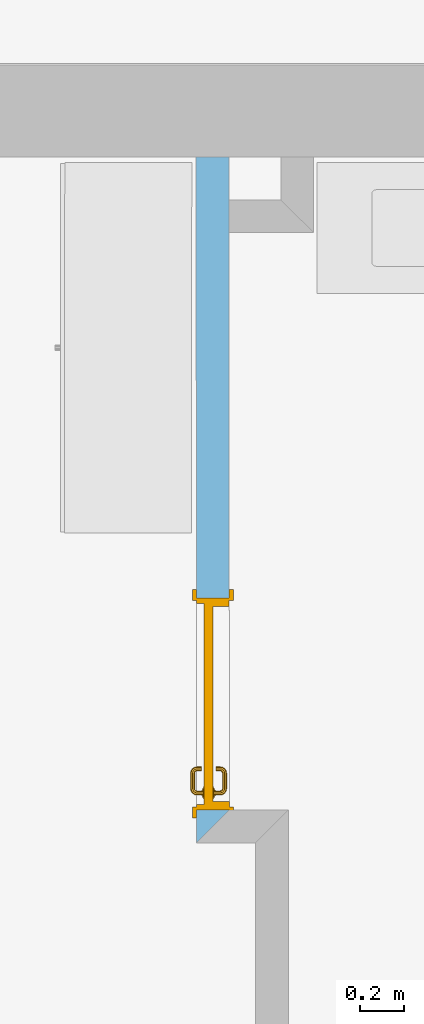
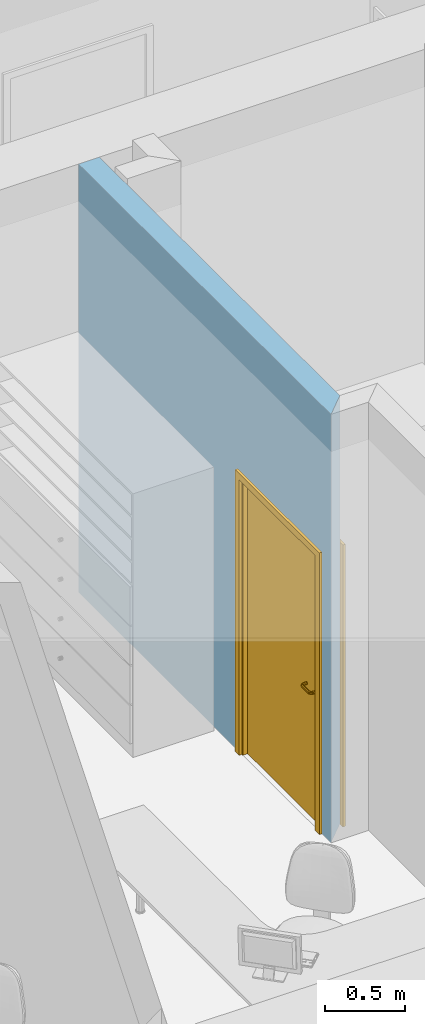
# One storey, part 56 of 194: 1 door, 1 opening, plus 1 element that does not belong to this part.
"""IFC2X3 building model written with IfcOpenShell, lengths in millimetres."""

from ifc_helpers import new_model, entity, si_unit, converted_unit, derived_unit, money_unit, direction, frame, origin_with_axes, origin_2d_with_axis, place, context, subcontext, project, spatial, polyline, rectangle, outline, extrude, open_shell, faceted_brep, surface_model, material, layer, layer_set, layer_usage, type_object, element, fill, save


model = new_model("IFC2X3")

# Units and contexts
model_context = context("Model", 3, precision=1e-05, world=origin_with_axes(), true_north=direction((0.0, 1.0)))
body_context = subcontext(model_context, "Body", "Model", "MODEL_VIEW")
ifc_project = project(units=[si_unit("LENGTHUNIT", "METRE", prefix="MILLI"), si_unit("AREAUNIT", "SQUARE_METRE"), si_unit("VOLUMEUNIT", "CUBIC_METRE"), converted_unit("PLANEANGLEUNIT", "DEGREE", entity("IfcPlaneAngleMeasure", 0.0174532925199), si_unit("PLANEANGLEUNIT", "RADIAN"), dimensions=[0, 0, 0, 0, 0, 0, 0]), si_unit("SOLIDANGLEUNIT", "STERADIAN"), money_unit("EUR"), converted_unit("TIMEUNIT", "Year", entity("IfcTimeMeasure", 31556926.0), si_unit("TIMEUNIT", "SECOND"), dimensions=[0, 0, 1, 0, 0, 0, 0]), si_unit("MASSUNIT", "GRAM", prefix="KILO"), si_unit("THERMODYNAMICTEMPERATUREUNIT", "DEGREE_CELSIUS"), si_unit("LUMINOUSINTENSITYUNIT", "LUMEN"), si_unit("ENERGYUNIT", "JOULE", prefix="MEGA"), derived_unit("THERMALCONDUCTANCEUNIT", [(si_unit("POWERUNIT", "WATT"), 1), (si_unit("LENGTHUNIT", "METRE"), -1), (si_unit("THERMODYNAMICTEMPERATUREUNIT", "KELVIN"), -1)]), derived_unit("SPECIFICHEATCAPACITYUNIT", [(si_unit("ENERGYUNIT", "JOULE"), 1), (si_unit("MASSUNIT", "GRAM", prefix="KILO"), -1), (si_unit("THERMODYNAMICTEMPERATUREUNIT", "KELVIN"), -1)]), derived_unit("MASSDENSITYUNIT", [(si_unit("MASSUNIT", "GRAM", prefix="KILO"), 1), (si_unit("VOLUMEUNIT", "CUBIC_METRE"), -1)])], contexts=[model_context])

# Site, building, storey
site_placement = place(None, origin_with_axes())
site = spatial("IfcSite", under=ifc_project, at=site_placement, Name="Site", CompositionType="ELEMENT")
building_placement = place(site_placement, origin_with_axes())
building = spatial("IfcBuilding", under=site, at=building_placement, Name="Building", CompositionType="ELEMENT")
storey_placement = place(building_placement, frame((0.0, 0.0, 3000.0), z_axis=(0.0, 0.0, 1.0), x_axis=(1.0, 0.0, 0.0)))
storey = spatial("IfcBuildingStorey", under=building, at=storey_placement, Name="2 KORRUS", CompositionType="ELEMENT", Elevation=3000.0)

# Wall, opening, door
ifc_material = material(Name="Kivi -Ol.Olev Konstruktsioon")
ifc_layer = layer(ifc_material, 150.0, ventilated="UNKNOWN")
ifc_layer_set = layer_set([ifc_layer], Name="ol.olev ss 150")
ifc_layer_usage = layer_usage(ifc_layer_set, "AXIS2", "POSITIVE", 0.0)
wall_type = type_object("IfcWallType", Name="SW - 022", PredefinedType="NOTDEFINED")
wall_placement = place(storey_placement, frame((57733.5737612, 41101.6242698, 0.0), z_axis=(0.0, 0.0, 1.0), x_axis=(0.000781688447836, -0.999999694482, 0.0)))
wall = element("IfcWallStandardCase", 1, at=wall_placement, inside=storey, type_object=wall_type, material=ifc_layer_usage, Name="ol.olev ss 150", context=body_context, shape_type="SweptSolid", body=[
    extrude(outline(polyline([(420.000128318, 0.0), (3553.92922897, 0.0), (3403.92688897, 150.0), (420.117381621, 150.0), (420.000128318, 0.0)])), origin_with_axes(), (0.0, 0.0, 1.0), 3250.0),
])
opening_placement = place(wall_placement, frame((2918.92688897, 0.0, 0.0), z_axis=(0.0, 0.0, 1.0), x_axis=(1.0, 0.0, 0.0)))
opening = element("IfcOpeningElement", 2, at=opening_placement, cuts=wall, Name="Siseuks * Door 22", context=body_context, shape_type="SweptSolid", body=[
    extrude(rectangle(XDim=970.0, YDim=2100.0, at=origin_2d_with_axis()), frame((0.0, -150.0, 1050.0), z_axis=(0.0, 1.0, 0.0), x_axis=(-1.0, 0.0, 0.0)), (0.0, 0.0, 1.0), 450.0),
    extrude(rectangle(XDim=1044.0, YDim=2137.0, at=origin_2d_with_axis()), frame((0.0, 0.0, 1068.5), z_axis=(0.0, 1.0, 0.0), x_axis=(-1.0, 0.0, 0.0)), (0.0, 0.0, -1.0), 150.0),
    extrude(rectangle(XDim=1044.0, YDim=2137.0, at=origin_2d_with_axis()), frame((-9.09494701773e-10, 150.0, 1068.5), z_axis=(0.0, -1.0, 0.0), x_axis=(-1.0, 0.0, 0.0)), (0.0, 0.0, -1.0), 150.0),
])
door_style = type_object("IfcDoorStyle", Name="SU-B224   970×2\xa0100", ConstructionType="NOTDEFINED", OperationType="SINGLE_SWING_RIGHT", ParameterTakesPrecedence=False, Sizeable=False)
door_placement = place(opening_placement, frame((485.0, -1.13686837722e-10, 0.0), z_axis=(0.0, 0.0, 1.0), x_axis=(-1.0, 0.0, 0.0)))
door = element("IfcDoor", 3, at=door_placement, inside=storey, type_object=door_style, Name="Siseuks * Door 22", OverallHeight=2100.0, OverallWidth=970.0, context=body_context, shape_type="SurfaceModel", body=[
    faceted_brep([(-9.09494701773e-10, -35.0, 0.0), (9.09494701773e-10, 0.0, 0.0), (25.0000000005, 0.0, 0.0), (24.9999999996, -35.0000000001, 0.0), (-9.09494701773e-10, -35.0, 2100.0), (9.09494701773e-10, 0.0, 2100.0), (25.0000000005, 0.0, 2075.0), (24.9999999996, -35.0000000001, 2075.0)], [[[0, 1, 2, 3]], [[4, 5, 1, 0]], [[1, 5, 6, 2]], [[3, 2, 6, 7]], [[0, 3, 7, 4]], [[7, 6, 5, 4]]]),
    faceted_brep([(970.0, -35.0000000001, 2100.0), (970.0, 0.0, 2100.0), (945.0, 0.0, 2075.0), (945.0, -35.0, 2075.0), (970.0, -35.0000000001, 0.0), (970.0, 0.0, 0.0), (945.0, 0.0, 0.0), (945.0, -35.0, 0.0)], [[[0, 1, 2, 3]], [[4, 5, 1, 0]], [[1, 5, 6, 2]], [[3, 2, 6, 7]], [[0, 3, 7, 4]], [[7, 6, 5, 4]]]),
    faceted_brep([(24.9999999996, -35.0000000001, 2075.0), (25.0000000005, 0.0, 2075.0), (945.0, 0.0, 2075.0), (945.0, -35.0, 2075.0), (-9.09494701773e-10, -35.0, 2100.0), (9.09494701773e-10, 0.0, 2100.0), (970.0, 0.0, 2100.0), (970.0, -35.0000000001, 2100.0)], [[[0, 1, 2, 3]], [[4, 5, 1, 0]], [[1, 5, 6, 2]], [[3, 2, 6, 7]], [[0, 3, 7, 4]], [[7, 6, 5, 4]]]),
    faceted_brep([(-36.9999999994, 19.0, 0.0), (12.9999999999, 19.0, 0.0), (13.0000000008, 0.0, 0.0), (-36.9999999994, 0.0, 0.0), (-36.9999999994, 19.0, 2137.0), (12.9999999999, 19.0, 2087.0), (13.0000000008, 0.0, 2087.0), (-36.9999999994, 0.0, 2137.0)], [[[0, 1, 2, 3]], [[0, 4, 5, 1]], [[1, 5, 6, 2]], [[3, 2, 6, 7]], [[4, 0, 3, 7]], [[5, 4, 7, 6]]]),
    faceted_brep([(1007.0, 19.0, 2137.0), (956.999999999, 19.0, 2087.0), (957.0, 0.0, 2087.0), (1007.0, 0.0, 2137.0), (1007.0, 19.0, 0.0), (956.999999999, 19.0, 0.0), (957.0, 0.0, 0.0), (1007.0, 0.0, 0.0)], [[[0, 1, 2, 3]], [[0, 4, 5, 1]], [[1, 5, 6, 2]], [[3, 2, 6, 7]], [[4, 0, 3, 7]], [[5, 4, 7, 6]]]),
    faceted_brep([(-36.9999999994, 19.0, 2137.0), (12.9999999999, 19.0, 2087.0), (13.0000000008, 0.0, 2087.0), (-36.9999999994, 0.0, 2137.0), (1007.0, 19.0, 2137.0), (956.999999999, 19.0, 2087.0), (957.0, 0.0, 2087.0), (1007.0, 0.0, 2137.0)], [[[0, 1, 2, 3]], [[0, 4, 5, 1]], [[1, 5, 6, 2]], [[3, 2, 6, 7]], [[4, 0, 3, 7]], [[5, 4, 7, 6]]]),
    faceted_brep([(-37.0000000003, -169.0, 0.0), (-37.0000000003, -150.0, 0.0), (12.9999999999, -150.0, 0.0), (12.9999999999, -169.0, 0.0), (-37.0000000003, -169.0, 2137.0), (-37.0000000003, -150.0, 2137.0), (12.9999999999, -150.0, 2087.0), (12.9999999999, -169.0, 2087.0)], [[[0, 1, 2, 3]], [[4, 5, 1, 0]], [[1, 5, 6, 2]], [[3, 2, 6, 7]], [[0, 3, 7, 4]], [[7, 6, 5, 4]]]),
    faceted_brep([(1007.0, -169.0, 2137.0), (1007.0, -150.0, 2137.0), (956.999999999, -150.0, 2087.0), (957.0, -169.0, 2087.0), (1007.0, -169.0, 0.0), (1007.0, -150.0, 0.0), (956.999999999, -150.0, 0.0), (957.0, -169.0, 0.0)], [[[0, 1, 2, 3]], [[4, 5, 1, 0]], [[1, 5, 6, 2]], [[3, 2, 6, 7]], [[0, 3, 7, 4]], [[7, 6, 5, 4]]]),
    faceted_brep([(-37.0000000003, -169.0, 2137.0), (-37.0000000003, -150.0, 2137.0), (12.9999999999, -150.0, 2087.0), (12.9999999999, -169.0, 2087.0), (1007.0, -169.0, 2137.0), (1007.0, -150.0, 2137.0), (956.999999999, -150.0, 2087.0), (957.0, -169.0, 2087.0)], [[[0, 1, 2, 3]], [[4, 5, 1, 0]], [[1, 5, 6, 2]], [[3, 2, 6, 7]], [[0, 3, 7, 4]], [[7, 6, 5, 4]]]),
    faceted_brep([(40.0, -75.0000000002, 0.0), (40.0, -75.0000000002, 2060.0), (39.9999999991, -150.0, 2060.0), (39.9999999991, -150.0, 0.0), (28.0000000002, -74.9999999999, 2060.0), (28.0000000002, -74.9999999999, 0.0), (28.0000000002, -35.0000000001, 2060.0), (-9.09494701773e-10, -35.0, 2060.0), (0.0, -150.0, 2060.0), (0.0, -150.0, 0.0), (-9.09494701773e-10, -35.0, 0.0), (28.0000000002, -35.0000000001, 0.0)], [[[0, 1, 2, 3]], [[4, 1, 0, 5]], [[4, 6, 7, 8, 2, 1]], [[3, 2, 8, 9]], [[5, 0, 3, 9, 10, 11]], [[6, 4, 5, 11]], [[6, 11, 10, 7]], [[10, 9, 8, 7]]]),
    faceted_brep([(941.999999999, -75.0, 2060.0), (929.999999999, -75.0, 2060.0), (930.0, -150.0, 2060.0), (969.999999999, -150.0, 2060.0), (970.0, -35.0000000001, 2060.0), (942.0, -35.0, 2060.0), (941.999999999, -75.0, 0.0), (929.999999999, -75.0, 0.0), (930.0, -150.0, 0.0), (969.999999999, -150.0, 0.0), (970.0, -35.0000000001, 0.0), (942.0, -35.0, 0.0)], [[[0, 1, 2, 3, 4, 5]], [[1, 0, 6, 7]], [[1, 7, 8, 2]], [[3, 2, 8, 9]], [[4, 3, 9, 10]], [[11, 5, 4, 10]], [[0, 5, 11, 6]], [[6, 11, 10, 9, 8, 7]]]),
    faceted_brep([(28.0000000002, -35.0000000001, 2072.0), (28.0000000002, -35.0000000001, 2060.0), (-9.09494701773e-10, -35.0, 2060.0), (-9.09494701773e-10, -35.0, 2100.0), (970.0, -35.0000000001, 2100.0), (970.0, -35.0000000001, 2060.0), (942.0, -35.0, 2060.0), (942.0, -35.0, 2072.0), (28.0000000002, -74.9999999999, 2072.0), (28.0000000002, -74.9999999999, 2060.0), (40.0, -75.0000000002, 2060.0), (39.9999999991, -150.0, 2060.0), (0.0, -150.0, 2060.0), (0.0, -150.0, 2100.0), (969.999999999, -150.0, 2100.0), (969.999999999, -150.0, 2060.0), (941.999999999, -75.0, 2060.0), (930.0, -150.0, 2060.0), (929.999999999, -75.0, 2060.0), (941.999999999, -75.0, 2072.0)], [[[0, 1, 2, 3, 4, 5, 6, 7]], [[1, 0, 8, 9]], [[9, 10, 11, 12, 2, 1]], [[2, 12, 13, 3]], [[3, 13, 14, 4]], [[4, 14, 15, 5]], [[16, 6, 5, 15, 17, 18]], [[7, 6, 16, 19]], [[0, 7, 19, 8]], [[16, 18, 10, 9, 8, 19]], [[10, 18, 17, 11]], [[17, 15, 14, 13, 12, 11]]]),
    faceted_brep([(49.5000000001, -75.0, 1060.0), (49.5000000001, -78.0, 1060.0), (106.500000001, -78.0, 1060.0), (106.499999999, -75.0, 1060.0), (49.5000000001, -75.0, 870.0), (49.5000000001, -78.0, 870.0), (106.500000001, -78.0, 870.0), (106.499999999, -75.0, 870.0)], [[[0, 1, 2, 3]], [[4, 5, 1, 0]], [[1, 5, 6, 2]], [[3, 2, 6, 7]], [[0, 3, 7, 4]], [[7, 6, 5, 4]]]),
    surface_model("IfcShellBasedSurfaceModel", [(87.9999999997, -88.0000000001, 1000.0), (87.9999999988, -107.015085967, 1000.0), (85.0710678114, -107.303560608, 992.928932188), (85.0710678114, -88.0000000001, 992.928932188), (85.0710678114, -88.0000000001, 1007.07106781), (85.0710678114, -107.303560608, 1007.07106781), (88.9422033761, -111.751862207, 1000.0), (86.1832095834, -112.894674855, 992.928932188), (77.9999999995, -108.0, 990.0), (78.0000000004, -88.0000000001, 990.0), (78.0000000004, -88.0000000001, 1010.0), (77.9999999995, -108.0, 1010.0), (86.1832095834, -112.894674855, 1007.07106781), (91.0674625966, -114.932537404, 1000.0), (88.955820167, -117.044179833, 992.928932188), (79.5224093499, -115.653668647, 990.0), (70.9289321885, -108.696439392, 992.928932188), (70.9289321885, -88.0000000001, 992.928932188), (70.9289321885, -88.0000000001, 1007.07106781), (70.9289321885, -108.696439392, 1007.07106781), (79.5224093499, -115.653668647, 1010.0), (88.955820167, -117.044179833, 1007.07106781), (94.2481377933, -117.057796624, 1000.0), (93.1053251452, -119.816790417, 992.928932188), (83.8578643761, -122.142135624, 990.0), (72.8616091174, -118.41266244, 992.928932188), (67.9999999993, -108.984914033, 1000.0), (68.0000000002, -88.0000000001, 1000.0), (72.8616091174, -118.41266244, 1007.07106781), (83.8578643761, -122.142135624, 1010.0), (93.1053251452, -119.816790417, 1007.07106781), (98.9849140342, -118.0, 1000.0), (98.6964393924, -120.928932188, 992.928932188), (90.3463313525, -126.47759065, 990.0), (78.7599085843, -127.240091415, 992.928932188), (70.1026153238, -119.555475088, 1000.0), (78.7599085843, -127.240091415, 1007.07106781), (90.3463313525, -126.47759065, 1010.0), (98.6964393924, -120.928932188, 1007.07106781), (167.015085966, -118.0, 1000.0), (167.303560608, -120.928932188, 992.928932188), (98.0, -128.0, 990.0), (87.5873375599, -133.138390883, 992.928932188), (76.6482661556, -129.351733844, 1000.0), (87.5873375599, -133.138390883, 1007.07106781), (98.0, -128.0, 1010.0), (167.303560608, -120.928932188, 1007.07106781), (171.751862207, -117.057796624, 1000.0), (172.894674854, -119.816790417, 992.928932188), (168.0, -128.0, 990.0), (97.3035606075, -135.071067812, 992.928932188), (86.4445249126, -135.897384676, 1000.0), (97.3035606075, -135.071067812, 1007.07106781), (168.0, -128.0, 1010.0), (172.894674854, -119.816790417, 1007.07106781), (174.932537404, -114.932537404, 1000.0), (177.044179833, -117.044179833, 992.928932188), (175.653668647, -126.47759065, 990.0), (168.696439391, -135.071067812, 992.928932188), (97.0150859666, -138.0, 1000.0), (168.696439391, -135.071067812, 1007.07106781), (175.653668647, -126.47759065, 1010.0), (177.044179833, -117.044179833, 1007.07106781), (177.057796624, -111.751862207, 1000.0), (179.816790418, -112.894674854, 992.928932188), (182.142135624, -122.142135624, 990.0), (178.41266244, -133.138390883, 992.928932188), (168.984914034, -138.0, 1000.0), (178.41266244, -133.138390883, 1007.07106781), (182.142135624, -122.142135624, 1010.0), (179.816790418, -112.894674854, 1007.07106781), (178.0, -107.015085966, 1000.0), (180.928932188, -107.303560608, 992.928932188), (186.47759065, -115.653668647, 990.0), (187.240091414, -127.240091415, 992.928932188), (179.555475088, -135.897384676, 1000.0), (187.240091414, -127.240091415, 1007.07106781), (186.47759065, -115.653668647, 1010.0), (180.928932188, -107.303560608, 1007.07106781), (178.000000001, -88.0000000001, 1000.0), (180.928932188, -88.0000000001, 992.928932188), (187.999999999, -108.0, 990.0), (193.138390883, -118.41266244, 992.928932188), (189.351733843, -129.351733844, 1000.0), (193.138390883, -118.41266244, 1007.07106781), (187.999999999, -108.0, 1010.0), (180.928932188, -88.0000000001, 1007.07106781), (188.0, -88.0000000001, 1010.0), (195.071067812, -88.0000000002, 1007.07106781), (197.999999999, -88.0000000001, 1000.0), (195.071067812, -88.0000000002, 992.928932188), (188.0, -88.0000000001, 990.0), (195.071067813, -108.696439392, 992.928932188), (195.897384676, -119.555475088, 1000.0), (195.071067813, -108.696439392, 1007.07106781), (198.0, -108.984914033, 1000.0)], [open_shell([[[0, 1, 2, 3]], [[4, 5, 1, 0]], [[1, 6, 7, 2]], [[3, 2, 8, 9]], [[10, 11, 5, 4]], [[5, 12, 6, 1]], [[6, 13, 14, 7]], [[2, 7, 15, 8]], [[9, 8, 16, 17]], [[18, 19, 11, 10]], [[11, 20, 12, 5]], [[12, 21, 13, 6]], [[13, 22, 23, 14]], [[7, 14, 24, 15]], [[8, 15, 25, 16]], [[17, 16, 26, 27]], [[27, 26, 19, 18]], [[19, 28, 20, 11]], [[20, 29, 21, 12]], [[21, 30, 22, 13]], [[22, 31, 32, 23]], [[14, 23, 33, 24]], [[15, 24, 34, 25]], [[16, 25, 35, 26]], [[26, 35, 28, 19]], [[28, 36, 29, 20]], [[29, 37, 30, 21]], [[30, 38, 31, 22]], [[31, 39, 40, 32]], [[23, 32, 41, 33]], [[24, 33, 42, 34]], [[25, 34, 43, 35]], [[35, 43, 36, 28]], [[36, 44, 37, 29]], [[37, 45, 38, 30]], [[38, 46, 39, 31]], [[39, 47, 48, 40]], [[32, 40, 49, 41]], [[33, 41, 50, 42]], [[34, 42, 51, 43]], [[43, 51, 44, 36]], [[44, 52, 45, 37]], [[45, 53, 46, 38]], [[46, 54, 47, 39]], [[47, 55, 56, 48]], [[40, 48, 57, 49]], [[41, 49, 58, 50]], [[42, 50, 59, 51]], [[51, 59, 52, 44]], [[52, 60, 53, 45]], [[53, 61, 54, 46]], [[54, 62, 55, 47]], [[55, 63, 64, 56]], [[48, 56, 65, 57]], [[49, 57, 66, 58]], [[50, 58, 67, 59]], [[59, 67, 60, 52]], [[60, 68, 61, 53]], [[61, 69, 62, 54]], [[62, 70, 63, 55]], [[63, 71, 72, 64]], [[56, 64, 73, 65]], [[57, 65, 74, 66]], [[58, 66, 75, 67]], [[67, 75, 68, 60]], [[68, 76, 69, 61]], [[69, 77, 70, 62]], [[70, 78, 71, 63]], [[71, 79, 80, 72]], [[64, 72, 81, 73]], [[65, 73, 82, 74]], [[66, 74, 83, 75]], [[75, 83, 76, 68]], [[76, 84, 77, 69]], [[77, 85, 78, 70]], [[78, 86, 79, 71]], [[79, 86, 87, 88, 89, 90, 91, 80]], [[72, 80, 91, 81]], [[73, 81, 92, 82]], [[74, 82, 93, 83]], [[83, 93, 84, 76]], [[84, 94, 85, 77]], [[85, 87, 86, 78]], [[94, 88, 87, 85]], [[95, 89, 88, 94]], [[92, 90, 89, 95]], [[81, 91, 90, 92]], [[82, 92, 95, 93]], [[93, 95, 94, 84]]])]),
    faceted_brep([(88.392304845, -88.0, 994.0), (89.2583302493, -78.0000000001, 993.5), (90.9999999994, -78.0000000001, 1000.0), (90.0000000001, -88.0000000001, 1000.0), (83.9999999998, -88.0, 989.607695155), (84.4999999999, -78.0000000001, 988.741669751), (77.9999999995, -78.0000000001, 987.0), (71.5, -78.0000000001, 988.741669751), (66.7416697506, -78.0000000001, 993.5), (64.9999999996, -78.0000000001, 1000.0), (66.7416697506, -78.0000000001, 1006.5), (71.5, -78.0000000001, 1011.25833025), (77.9999999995, -78.0000000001, 1013.0), (84.4999999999, -78.0000000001, 1011.25833025), (89.2583302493, -78.0000000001, 1006.5), (88.392304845, -88.0, 1006.0), (83.9999999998, -88.0, 1010.39230485), (78.0000000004, -88.0000000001, 1012.0), (71.9999999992, -88.0000000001, 1010.39230485), (67.6076951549, -88.0000000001, 1006.0), (65.9999999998, -88.0000000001, 1000.0), (67.6076951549, -88.0000000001, 994.0), (71.9999999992, -88.0000000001, 989.607695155), (78.0000000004, -88.0000000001, 988.0)], [[[0, 1, 2, 3]], [[4, 5, 1, 0]], [[2, 1, 5, 6, 7, 8, 9, 10, 11, 12, 13, 14]], [[3, 2, 14, 15]], [[3, 15, 16, 17, 18, 19, 20, 21, 22, 23, 4, 0]], [[23, 6, 5, 4]], [[22, 7, 6, 23]], [[21, 8, 7, 22]], [[20, 9, 8, 21]], [[19, 10, 9, 20]], [[18, 11, 10, 19]], [[17, 12, 11, 18]], [[16, 13, 12, 17]], [[15, 14, 13, 16]]]),
    faceted_brep([(95.3205080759, -82.0, 895.0), (97.0525588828, -78.0, 894.0), (100.0, -78.0, 905.0), (98.0, -82.0000000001, 905.0), (87.9999999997, -82.0000000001, 887.679491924), (88.9999999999, -78.0, 885.947441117), (77.9999999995, -78.0000000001, 883.0), (67.0, -78.0, 885.947441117), (58.9474411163, -78.0, 894.0), (56.0000000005, -78.0, 905.0), (58.9474411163, -78.0, 916.0), (67.0, -78.0, 924.052558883), (77.9999999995, -78.0000000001, 927.0), (88.9999999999, -78.0, 924.052558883), (97.0525588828, -78.0, 916.0), (95.3205080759, -82.0, 915.0), (87.9999999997, -82.0000000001, 922.320508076), (77.9999999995, -82.0000000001, 925.0), (68.0000000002, -82.0000000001, 922.320508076), (60.679491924, -82.0, 915.0), (58.0, -82.0000000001, 905.0), (60.679491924, -82.0, 895.0), (68.0000000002, -82.0000000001, 887.679491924), (77.9999999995, -82.0000000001, 885.0)], [[[0, 1, 2, 3]], [[4, 5, 1, 0]], [[2, 1, 5, 6, 7, 8, 9, 10, 11, 12, 13, 14]], [[3, 2, 14, 15]], [[3, 15, 16, 17, 18, 19, 20, 21, 22, 23, 4, 0]], [[23, 6, 5, 4]], [[22, 7, 6, 23]], [[21, 8, 7, 22]], [[20, 9, 8, 21]], [[19, 10, 9, 20]], [[18, 11, 10, 19]], [[17, 12, 11, 18]], [[16, 13, 12, 17]], [[15, 14, 13, 16]]]),
    faceted_brep([(82.9497474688, -84.0000000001, 909.050252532), (83.6568542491, -82.0, 908.343145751), (86.0000000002, -82.0000000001, 914.0), (84.9999999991, -84.0000000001, 914.0), (77.9999999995, -84.0000000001, 907.0), (77.9999999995, -82.0000000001, 906.0), (72.34314575, -82.0000000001, 908.343145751), (69.9999999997, -82.0000000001, 914.0), (72.34314575, -82.0000000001, 919.656854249), (77.9999999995, -82.0000000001, 922.0), (83.6568542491, -82.0, 919.656854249), (82.9497474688, -84.0000000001, 918.949747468), (77.9999999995, -84.0000000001, 921.0), (73.0502525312, -84.0000000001, 918.949747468), (70.9999999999, -84.0000000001, 914.0), (73.0502525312, -84.0000000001, 909.050252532)], [[[0, 1, 2, 3]], [[4, 5, 1, 0]], [[2, 1, 5, 6, 7, 8, 9, 10]], [[3, 2, 10, 11]], [[3, 11, 12, 13, 14, 15, 4, 0]], [[15, 6, 5, 4]], [[14, 7, 6, 15]], [[13, 8, 7, 14]], [[12, 9, 8, 13]], [[11, 10, 9, 12]]]),
    faceted_brep([(49.4999999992, -35.0, 1060.0), (106.5, -35.0000000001, 1060.0), (106.5, -32.0, 1060.0), (49.5000000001, -32.0, 1060.0), (49.4999999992, -35.0, 870.0), (106.5, -35.0000000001, 870.0), (106.5, -32.0, 870.0), (49.5000000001, -32.0, 870.0)], [[[0, 1, 2, 3]], [[0, 4, 5, 1]], [[1, 5, 6, 2]], [[3, 2, 6, 7]], [[4, 0, 3, 7]], [[5, 4, 7, 6]]]),
    surface_model("IfcShellBasedSurfaceModel", [(88.0000000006, -22.0, 1000.0), (85.0710678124, -22.0, 992.928932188), (85.0710678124, -2.69643939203, 992.928932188), (87.9999999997, -2.9849140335, 1000.0), (77.9999999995, -22.0, 990.0), (77.9999999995, -2.00000000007, 990.0), (86.1832095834, 2.89467485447, 992.928932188), (88.9422033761, 1.7518622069, 1000.0), (85.0710678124, -22.0, 1007.07106781), (85.0710678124, -2.69643939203, 1007.07106781), (70.9289321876, -22.0, 992.928932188), (70.9289321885, -1.30356060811, 992.928932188), (79.5224093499, 5.65366864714, 990.0), (88.9558201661, 7.04417983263, 992.928932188), (91.0674625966, 4.93253740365, 1000.0), (86.1832095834, 2.89467485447, 1007.07106781), (77.9999999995, -22.0, 1010.0), (77.9999999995, -2.00000000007, 1010.0), (68.0000000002, -22.0, 1000.0), (68.0000000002, -1.01508596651, 1000.0), (72.8616091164, 8.41266244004, 992.928932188), (83.8578643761, 12.1421356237, 990.0), (93.1053251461, 9.81679041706, 992.928932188), (94.2481377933, 7.05779662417, 1000.0), (88.9558201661, 7.04417983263, 1007.07106781), (79.5224093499, 5.65366864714, 1010.0), (70.9289321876, -22.0, 1007.07106781), (70.9289321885, -1.30356060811, 1007.07106781), (70.1026153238, 9.55547508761, 1000.0), (78.7599085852, 17.2400914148, 992.928932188), (90.3463313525, 16.4775906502, 990.0), (98.6964393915, 10.9289321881, 992.928932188), (98.9849140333, 8.00000000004, 1000.0), (93.1053251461, 9.81679041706, 1007.07106781), (83.8578643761, 12.1421356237, 1010.0), (72.8616091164, 8.41266244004, 1007.07106781), (76.6482661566, 19.3517338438, 1000.0), (87.5873375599, 23.1383908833, 992.928932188), (98.0, 17.9999999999, 990.0), (167.303560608, 10.928932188, 992.928932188), (167.015085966, 7.99999999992, 1000.0), (98.6964393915, 10.9289321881, 1007.07106781), (90.3463313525, 16.4775906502, 1010.0), (78.7599085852, 17.2400914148, 1007.07106781), (86.4445249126, 25.8973846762, 1000.0), (97.3035606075, 25.0710678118, 992.928932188), (168.0, 17.9999999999, 990.0), (172.894674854, 9.81679041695, 992.928932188), (171.751862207, 7.05779662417, 1000.0), (167.303560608, 10.928932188, 1007.07106781), (98.0, 17.9999999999, 1010.0), (87.5873375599, 23.1383908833, 1007.07106781), (97.0150859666, 28.0, 1000.0), (168.696439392, 25.0710678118, 992.928932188), (175.653668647, 16.4775906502, 990.0), (177.044179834, 7.04417983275, 992.928932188), (174.932537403, 4.93253740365, 1000.0), (172.894674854, 9.81679041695, 1007.07106781), (168.0, 17.9999999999, 1010.0), (97.3035606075, 25.0710678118, 1007.07106781), (168.984914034, 27.9999999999, 1000.0), (178.41266244, 23.1383908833, 992.928932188), (182.142135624, 12.1421356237, 990.0), (179.816790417, 2.89467485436, 992.928932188), (177.057796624, 1.75186220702, 1000.0), (177.044179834, 7.04417983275, 1007.07106781), (175.653668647, 16.4775906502, 1010.0), (168.696439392, 25.0710678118, 1007.07106781), (179.555475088, 25.8973846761, 1000.0), (187.240091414, 17.2400914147, 992.928932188), (186.47759065, 5.65366864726, 990.0), (180.928932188, -2.69643939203, 992.928932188), (178.0, -2.9849140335, 1000.0), (179.816790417, 2.89467485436, 1007.07106781), (182.142135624, 12.1421356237, 1010.0), (178.41266244, 23.1383908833, 1007.07106781), (189.351733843, 19.3517338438, 1000.0), (193.138390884, 8.41266244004, 992.928932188), (188.0, -2.00000000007, 990.0), (180.928932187, -22.0, 992.928932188), (178.000000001, -22.0, 1000.0), (180.928932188, -2.69643939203, 1007.07106781), (186.47759065, 5.65366864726, 1010.0), (187.240091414, 17.2400914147, 1007.07106781), (195.897384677, 9.5554750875, 1000.0), (195.071067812, -1.30356060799, 992.928932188), (188.0, -22.0, 990.0), (195.071067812, -22.0, 992.928932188), (198.0, -22.0, 1000.0), (195.071067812, -22.0, 1007.07106781), (188.0, -22.0, 1010.0), (180.928932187, -22.0, 1007.07106781), (188.0, -2.00000000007, 1010.0), (193.138390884, 8.41266244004, 1007.07106781), (197.999999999, -1.01508596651, 1000.0), (195.071067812, -1.30356060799, 1007.07106781)], [open_shell([[[0, 1, 2, 3]], [[1, 4, 5, 2]], [[3, 2, 6, 7]], [[8, 0, 3, 9]], [[4, 10, 11, 5]], [[2, 5, 12, 6]], [[7, 6, 13, 14]], [[9, 3, 7, 15]], [[16, 8, 9, 17]], [[10, 18, 19, 11]], [[5, 11, 20, 12]], [[6, 12, 21, 13]], [[14, 13, 22, 23]], [[15, 7, 14, 24]], [[17, 9, 15, 25]], [[26, 16, 17, 27]], [[18, 26, 27, 19]], [[11, 19, 28, 20]], [[12, 20, 29, 21]], [[13, 21, 30, 22]], [[23, 22, 31, 32]], [[24, 14, 23, 33]], [[25, 15, 24, 34]], [[27, 17, 25, 35]], [[19, 27, 35, 28]], [[20, 28, 36, 29]], [[21, 29, 37, 30]], [[22, 30, 38, 31]], [[32, 31, 39, 40]], [[33, 23, 32, 41]], [[34, 24, 33, 42]], [[35, 25, 34, 43]], [[28, 35, 43, 36]], [[29, 36, 44, 37]], [[30, 37, 45, 38]], [[31, 38, 46, 39]], [[40, 39, 47, 48]], [[41, 32, 40, 49]], [[42, 33, 41, 50]], [[43, 34, 42, 51]], [[36, 43, 51, 44]], [[37, 44, 52, 45]], [[38, 45, 53, 46]], [[39, 46, 54, 47]], [[48, 47, 55, 56]], [[49, 40, 48, 57]], [[50, 41, 49, 58]], [[51, 42, 50, 59]], [[44, 51, 59, 52]], [[45, 52, 60, 53]], [[46, 53, 61, 54]], [[47, 54, 62, 55]], [[56, 55, 63, 64]], [[57, 48, 56, 65]], [[58, 49, 57, 66]], [[59, 50, 58, 67]], [[52, 59, 67, 60]], [[53, 60, 68, 61]], [[54, 61, 69, 62]], [[55, 62, 70, 63]], [[64, 63, 71, 72]], [[65, 56, 64, 73]], [[66, 57, 65, 74]], [[67, 58, 66, 75]], [[60, 67, 75, 68]], [[61, 68, 76, 69]], [[62, 69, 77, 70]], [[63, 70, 78, 71]], [[72, 71, 79, 80]], [[73, 64, 72, 81]], [[74, 65, 73, 82]], [[75, 66, 74, 83]], [[68, 75, 83, 76]], [[69, 76, 84, 77]], [[70, 77, 85, 78]], [[71, 78, 86, 79]], [[80, 79, 86, 87, 88, 89, 90, 91]], [[81, 72, 80, 91]], [[82, 73, 81, 92]], [[83, 74, 82, 93]], [[76, 83, 93, 84]], [[77, 84, 94, 85]], [[78, 85, 87, 86]], [[85, 94, 88, 87]], [[94, 95, 89, 88]], [[95, 92, 90, 89]], [[92, 81, 91, 90]], [[93, 82, 92, 95]], [[84, 93, 95, 94]]])]),
    faceted_brep([(88.392304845, -22.0, 994.0), (90.0000000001, -22.0, 1000.0), (91.0000000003, -31.9999999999, 1000.0), (89.2583302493, -32.0000000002, 993.5), (83.9999999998, -22.0, 989.607695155), (77.9999999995, -22.0, 988.0), (72.0000000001, -22.0, 989.607695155), (67.607695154, -22.0, 994.0), (65.9999999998, -22.0, 1000.0), (67.607695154, -22.0, 1006.0), (72.0000000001, -22.0, 1010.39230485), (77.9999999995, -22.0, 1012.0), (83.9999999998, -22.0, 1010.39230485), (88.392304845, -22.0, 1006.0), (89.2583302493, -32.0000000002, 1006.5), (84.4999999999, -32.0, 1011.25833025), (77.9999999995, -32.0, 1013.0), (71.5, -32.0, 1011.25833025), (66.7416697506, -32.0000000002, 1006.5), (64.9999999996, -32.0, 1000.0), (66.7416697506, -32.0000000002, 993.5), (71.5, -32.0, 988.741669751), (77.9999999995, -32.0, 987.0), (84.4999999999, -32.0, 988.741669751)], [[[0, 1, 2, 3]], [[1, 0, 4, 5, 6, 7, 8, 9, 10, 11, 12, 13]], [[1, 13, 14, 2]], [[2, 14, 15, 16, 17, 18, 19, 20, 21, 22, 23, 3]], [[4, 0, 3, 23]], [[5, 4, 23, 22]], [[6, 5, 22, 21]], [[7, 6, 21, 20]], [[8, 7, 20, 19]], [[9, 8, 19, 18]], [[10, 9, 18, 17]], [[11, 10, 17, 16]], [[12, 11, 16, 15]], [[13, 12, 15, 14]]]),
    faceted_brep([(95.320508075, -28.0, 895.0), (98.0, -28.0000000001, 905.0), (99.9999999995, -32.0, 905.0), (97.0525588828, -32.0, 894.0), (87.9999999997, -28.0000000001, 887.679491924), (77.9999999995, -28.0000000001, 885.0), (68.0000000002, -28.0000000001, 887.679491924), (60.679491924, -28.0, 895.0), (58.0, -28.0000000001, 905.0), (60.679491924, -28.0, 915.0), (68.0000000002, -28.0000000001, 922.320508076), (77.9999999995, -28.0000000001, 925.0), (87.9999999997, -28.0000000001, 922.320508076), (95.320508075, -28.0, 915.0), (97.0525588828, -32.0, 916.0), (88.9999999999, -32.0, 924.052558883), (77.9999999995, -32.0, 927.0), (66.9999999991, -32.0000000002, 924.052558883), (58.9474411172, -32.0, 916.0), (56.0000000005, -32.0, 905.0), (58.9474411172, -32.0, 894.0), (66.9999999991, -32.0000000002, 885.947441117), (77.9999999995, -32.0, 883.0), (88.9999999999, -32.0, 885.947441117)], [[[0, 1, 2, 3]], [[1, 0, 4, 5, 6, 7, 8, 9, 10, 11, 12, 13]], [[1, 13, 14, 2]], [[2, 14, 15, 16, 17, 18, 19, 20, 21, 22, 23, 3]], [[4, 0, 3, 23]], [[5, 4, 23, 22]], [[6, 5, 22, 21]], [[7, 6, 21, 20]], [[8, 7, 20, 19]], [[9, 8, 19, 18]], [[10, 9, 18, 17]], [[11, 10, 17, 16]], [[12, 11, 16, 15]], [[13, 12, 15, 14]]]),
    faceted_brep([(82.9497474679, -26.0000000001, 909.050252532), (84.9999999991, -26.0000000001, 914.0), (86.0000000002, -27.9999999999, 914.0), (83.6568542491, -28.0000000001, 908.343145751), (77.9999999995, -26.0, 907.0), (73.0502525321, -26.0000000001, 909.050252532), (70.999999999, -26.0000000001, 914.0), (73.0502525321, -26.0000000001, 918.949747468), (77.9999999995, -26.0, 921.0), (82.9497474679, -26.0000000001, 918.949747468), (83.6568542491, -28.0000000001, 919.656854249), (77.9999999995, -28.0000000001, 922.0), (72.3431457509, -28.0000000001, 919.656854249), (69.9999999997, -28.0, 914.0), (72.3431457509, -28.0000000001, 908.343145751), (77.9999999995, -28.0000000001, 906.0)], [[[0, 1, 2, 3]], [[1, 0, 4, 5, 6, 7, 8, 9]], [[1, 9, 10, 2]], [[2, 10, 11, 12, 13, 14, 15, 3]], [[4, 0, 3, 15]], [[5, 4, 15, 14]], [[6, 5, 14, 13]], [[7, 6, 13, 12]], [[8, 7, 12, 11]], [[9, 8, 11, 10]]]),
    faceted_brep([(942.0, -35.0, 0.0), (941.999999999, -75.0, 0.0), (28.0000000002, -74.9999999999, 0.0), (28.0000000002, -35.0000000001, 0.0), (942.0, -35.0, 2072.0), (941.999999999, -75.0, 2072.0), (28.0000000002, -74.9999999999, 2072.0), (28.0000000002, -35.0000000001, 2072.0)], [[[0, 1, 2, 3]], [[4, 5, 1, 0]], [[1, 5, 6, 2]], [[3, 2, 6, 7]], [[0, 3, 7, 4]], [[7, 6, 5, 4]]]),
])
fill(opening, door)

save(model, "model.ifc")
